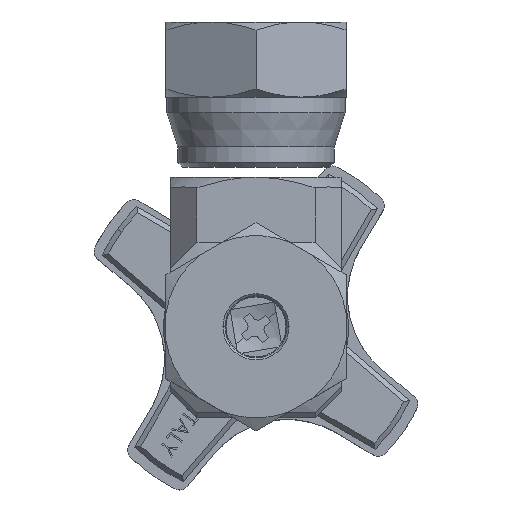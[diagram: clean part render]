
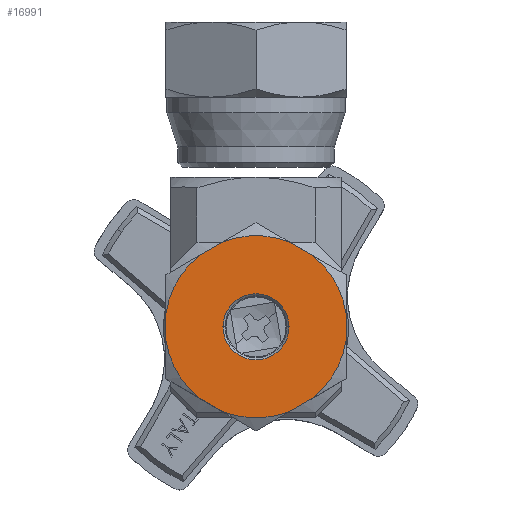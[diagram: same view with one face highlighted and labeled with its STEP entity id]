
A CAD part, top view. The second image highlights one B-rep face of the part: STEP entity #16991.
In plain terms, the highlighted planar face has unit normal (0, 0, 1).
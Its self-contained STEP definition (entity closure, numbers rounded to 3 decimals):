
#130 = EDGE_CURVE ( 'NONE', #24164, #13063, #11670, .T. ) ;
#990 = DIRECTION ( 'NONE',  ( 1., 0., 0. ) ) ;
#1035 = EDGE_CURVE ( 'NONE', #16829, #16346, #1039, .T. ) ;
#1039 = CIRCLE ( 'NONE', #14916, 3.3 ) ;
#1148 = CARTESIAN_POINT ( 'NONE',  ( -9., -5.196, 20.665 ) ) ;
#1153 = CIRCLE ( 'NONE', #5901, 9.1 ) ;
#1853 = CARTESIAN_POINT ( 'NONE',  ( 9., 1.345, 20.665 ) ) ;
#1921 = CIRCLE ( 'NONE', #26075, 9.1 ) ;
#1976 = CARTESIAN_POINT ( 'NONE',  ( -9., -1.345, 20.665 ) ) ;
#2154 = DIRECTION ( 'NONE',  ( 0., 0., 1. ) ) ;
#2963 = CARTESIAN_POINT ( 'NONE',  ( 0., 0., 20.665 ) ) ;
#3542 = EDGE_CURVE ( 'NONE', #21507, #23787, #1921, .T. ) ;
#3702 = ORIENTED_EDGE ( 'NONE', *, *, #25531, .T. ) ;
#4166 = CARTESIAN_POINT ( 'NONE',  ( 9., -1.345, 20.665 ) ) ;
#4185 = CARTESIAN_POINT ( 'NONE',  ( -3.3, 0., 20.665 ) ) ;
#4328 = FACE_BOUND ( 'NONE', #18156, .T. ) ;
#4535 = ORIENTED_EDGE ( 'NONE', *, *, #17893, .T. ) ;
#4645 = DIRECTION ( 'NONE',  ( -0.866, -0.5, 0. ) ) ;
#4831 = EDGE_CURVE ( 'NONE', #9411, #5079, #7232, .T. ) ;
#4839 = EDGE_CURVE ( 'NONE', #5079, #15764, #1153, .T. ) ;
#4892 = CARTESIAN_POINT ( 'NONE',  ( -9., 1.345, 20.665 ) ) ;
#4896 = CARTESIAN_POINT ( 'NONE',  ( 9., -5.196, 20.665 ) ) ;
#4977 = CARTESIAN_POINT ( 'NONE',  ( -3.335, 8.467, 20.665 ) ) ;
#5034 = DIRECTION ( 'NONE',  ( 1., 0., 0. ) ) ;
#5079 = VERTEX_POINT ( 'NONE', #1853 ) ;
#5164 = PLANE ( 'NONE',  #19382 ) ;
#5244 = DIRECTION ( 'NONE',  ( 0., 0., 1. ) ) ;
#5246 = DIRECTION ( 'NONE',  ( 0.866, -0.5, 0. ) ) ;
#5552 = ORIENTED_EDGE ( 'NONE', *, *, #21279, .T. ) ;
#5901 = AXIS2_PLACEMENT_3D ( 'NONE', #11076, #25376, #13078 ) ;
#6079 = EDGE_LOOP ( 'NONE', ( #6678, #3702, #12903, #18996, #4535, #19466, #9490, #11610, #6100, #17197, #22304, #24124 ) ) ;
#6100 = ORIENTED_EDGE ( 'NONE', *, *, #13279, .T. ) ;
#6667 = CARTESIAN_POINT ( 'NONE',  ( -3.335, -8.467, 20.665 ) ) ;
#6678 = ORIENTED_EDGE ( 'NONE', *, *, #3542, .T. ) ;
#7232 = LINE ( 'NONE', #4896, #22911 ) ;
#7314 = CARTESIAN_POINT ( 'NONE',  ( 0., -10.4, 20.665 ) ) ;
#7414 = DIRECTION ( 'NONE',  ( 0., 0., 1. ) ) ;
#7465 = CARTESIAN_POINT ( 'NONE',  ( 9., 5.196, 20.665 ) ) ;
#7850 = CARTESIAN_POINT ( 'NONE',  ( 5.665, -7.122, 20.665 ) ) ;
#8446 = CARTESIAN_POINT ( 'NONE',  ( 3.3, 0., 20.665 ) ) ;
#9319 = DIRECTION ( 'NONE',  ( 0., 0., -1. ) ) ;
#9356 = DIRECTION ( 'NONE',  ( 1., 0., 0. ) ) ;
#9411 = VERTEX_POINT ( 'NONE', #4166 ) ;
#9490 = ORIENTED_EDGE ( 'NONE', *, *, #4839, .T. ) ;
#9748 = AXIS2_PLACEMENT_3D ( 'NONE', #2963, #17261, #5034 ) ;
#10153 = CARTESIAN_POINT ( 'NONE',  ( -5.665, 7.122, 20.665 ) ) ;
#10330 = VERTEX_POINT ( 'NONE', #23658 ) ;
#10410 = EDGE_CURVE ( 'NONE', #15764, #10330, #18155, .T. ) ;
#10941 = AXIS2_PLACEMENT_3D ( 'NONE', #14355, #2154, #16442 ) ;
#10988 = EDGE_CURVE ( 'NONE', #23328, #15733, #16804, .T. ) ;
#11076 = CARTESIAN_POINT ( 'NONE',  ( 0., 0., 20.665 ) ) ;
#11290 = CARTESIAN_POINT ( 'NONE',  ( 0., 0., 20.665 ) ) ;
#11610 = ORIENTED_EDGE ( 'NONE', *, *, #10410, .T. ) ;
#11621 = EDGE_CURVE ( 'NONE', #21107, #23328, #18387, .T. ) ;
#11649 = LINE ( 'NONE', #1148, #16464 ) ;
#11670 = LINE ( 'NONE', #16891, #22586 ) ;
#12053 = CARTESIAN_POINT ( 'NONE',  ( 0., -10.392, 20.665 ) ) ;
#12682 = VECTOR ( 'NONE', #25883, 1000. ) ;
#12693 = DIRECTION ( 'NONE',  ( 0., -1., 0. ) ) ;
#12903 = ORIENTED_EDGE ( 'NONE', *, *, #11621, .T. ) ;
#13031 = CIRCLE ( 'NONE', #10941, 9.1 ) ;
#13063 = VERTEX_POINT ( 'NONE', #10153 ) ;
#13078 = DIRECTION ( 'NONE',  ( 1., 0., 0. ) ) ;
#13179 = DIRECTION ( 'NONE',  ( 0., 0., 1. ) ) ;
#13279 = EDGE_CURVE ( 'NONE', #10330, #24164, #22138, .T. ) ;
#13294 = DIRECTION ( 'NONE',  ( 1., 0., 0. ) ) ;
#14261 = CARTESIAN_POINT ( 'NONE',  ( 3.335, -8.467, 20.665 ) ) ;
#14355 = CARTESIAN_POINT ( 'NONE',  ( 0., 0., 20.665 ) ) ;
#14916 = AXIS2_PLACEMENT_3D ( 'NONE', #11290, #25589, #13294 ) ;
#15733 = VERTEX_POINT ( 'NONE', #7850 ) ;
#15764 = VERTEX_POINT ( 'NONE', #22694 ) ;
#16346 = VERTEX_POINT ( 'NONE', #8446 ) ;
#16406 = CIRCLE ( 'NONE', #19428, 9.1 ) ;
#16442 = DIRECTION ( 'NONE',  ( 1., 0., 0. ) ) ;
#16464 = VECTOR ( 'NONE', #5246, 1000. ) ;
#16804 = LINE ( 'NONE', #12053, #21626 ) ;
#16829 = VERTEX_POINT ( 'NONE', #4185 ) ;
#16891 = CARTESIAN_POINT ( 'NONE',  ( 0., 10.392, 20.665 ) ) ;
#16991 = ADVANCED_FACE ( 'NONE', ( #4328, #19995 ), #5164, .T. ) ;
#17197 = ORIENTED_EDGE ( 'NONE', *, *, #130, .T. ) ;
#17261 = DIRECTION ( 'NONE',  ( 0., 0., 1. ) ) ;
#17484 = CARTESIAN_POINT ( 'NONE',  ( 0., 0., 20.665 ) ) ;
#17893 = EDGE_CURVE ( 'NONE', #15733, #9411, #16406, .T. ) ;
#18155 = LINE ( 'NONE', #7465, #12682 ) ;
#18156 = EDGE_LOOP ( 'NONE', ( #5552, #21718 ) ) ;
#18303 = CARTESIAN_POINT ( 'NONE',  ( -5.665, -7.122, 20.665 ) ) ;
#18387 = CIRCLE ( 'NONE', #19951, 9.1 ) ;
#18996 = ORIENTED_EDGE ( 'NONE', *, *, #10988, .T. ) ;
#19200 = DIRECTION ( 'NONE',  ( 0., 1., 0. ) ) ;
#19382 = AXIS2_PLACEMENT_3D ( 'NONE', #7314, #21632, #9356 ) ;
#19428 = AXIS2_PLACEMENT_3D ( 'NONE', #17484, #5244, #19541 ) ;
#19466 = ORIENTED_EDGE ( 'NONE', *, *, #4831, .T. ) ;
#19541 = DIRECTION ( 'NONE',  ( 1., 0., 0. ) ) ;
#19645 = CARTESIAN_POINT ( 'NONE',  ( 0., 0., 20.665 ) ) ;
#19951 = AXIS2_PLACEMENT_3D ( 'NONE', #25479, #13179, #990 ) ;
#19995 = FACE_OUTER_BOUND ( 'NONE', #6079, .T. ) ;
#20039 = EDGE_CURVE ( 'NONE', #13063, #20739, #13031, .T. ) ;
#20739 = VERTEX_POINT ( 'NONE', #4892 ) ;
#21107 = VERTEX_POINT ( 'NONE', #6667 ) ;
#21279 = EDGE_CURVE ( 'NONE', #16346, #16829, #25389, .T. ) ;
#21507 = VERTEX_POINT ( 'NONE', #1976 ) ;
#21588 = CARTESIAN_POINT ( 'NONE',  ( 0., 0., 20.665 ) ) ;
#21626 = VECTOR ( 'NONE', #26405, 1000. ) ;
#21632 = DIRECTION ( 'NONE',  ( 0., 0., 1. ) ) ;
#21718 = ORIENTED_EDGE ( 'NONE', *, *, #1035, .T. ) ;
#21723 = DIRECTION ( 'NONE',  ( 1., 0., 0. ) ) ;
#22138 = CIRCLE ( 'NONE', #9748, 9.1 ) ;
#22304 = ORIENTED_EDGE ( 'NONE', *, *, #20039, .T. ) ;
#22586 = VECTOR ( 'NONE', #4645, 1000. ) ;
#22694 = CARTESIAN_POINT ( 'NONE',  ( 5.665, 7.122, 20.665 ) ) ;
#22911 = VECTOR ( 'NONE', #19200, 1000. ) ;
#23158 = VECTOR ( 'NONE', #12693, 1000. ) ;
#23328 = VERTEX_POINT ( 'NONE', #14261 ) ;
#23641 = DIRECTION ( 'NONE',  ( 1., 0., 0. ) ) ;
#23658 = CARTESIAN_POINT ( 'NONE',  ( 3.335, 8.467, 20.665 ) ) ;
#23787 = VERTEX_POINT ( 'NONE', #18303 ) ;
#23800 = LINE ( 'NONE', #24917, #23158 ) ;
#24124 = ORIENTED_EDGE ( 'NONE', *, *, #26020, .T. ) ;
#24164 = VERTEX_POINT ( 'NONE', #4977 ) ;
#24703 = AXIS2_PLACEMENT_3D ( 'NONE', #21588, #9319, #23641 ) ;
#24917 = CARTESIAN_POINT ( 'NONE',  ( -9., 5.196, 20.665 ) ) ;
#25376 = DIRECTION ( 'NONE',  ( 0., 0., 1. ) ) ;
#25389 = CIRCLE ( 'NONE', #24703, 3.3 ) ;
#25479 = CARTESIAN_POINT ( 'NONE',  ( 0., 0., 20.665 ) ) ;
#25531 = EDGE_CURVE ( 'NONE', #23787, #21107, #11649, .T. ) ;
#25589 = DIRECTION ( 'NONE',  ( 0., 0., -1. ) ) ;
#25883 = DIRECTION ( 'NONE',  ( -0.866, 0.5, 0. ) ) ;
#26020 = EDGE_CURVE ( 'NONE', #20739, #21507, #23800, .T. ) ;
#26075 = AXIS2_PLACEMENT_3D ( 'NONE', #19645, #7414, #21723 ) ;
#26405 = DIRECTION ( 'NONE',  ( 0.866, 0.5, 0. ) ) ;
